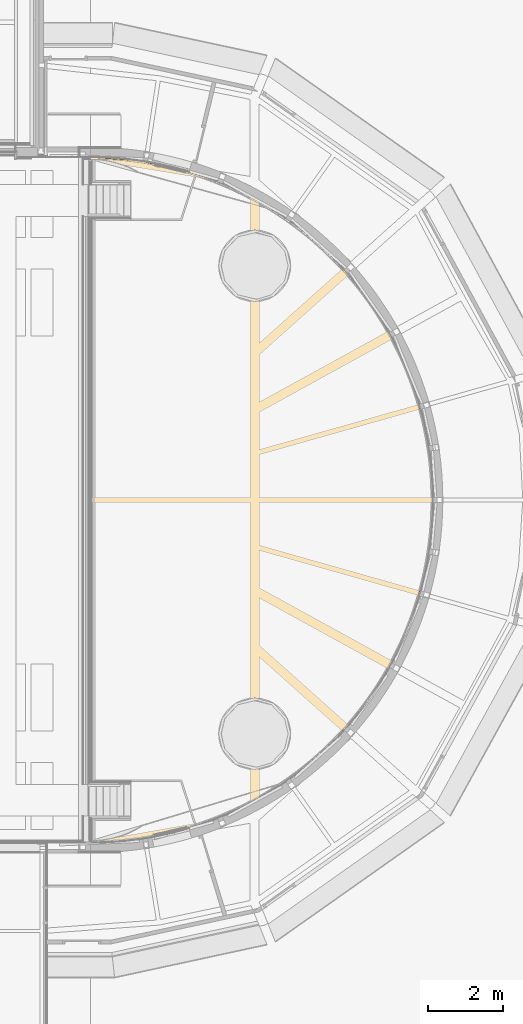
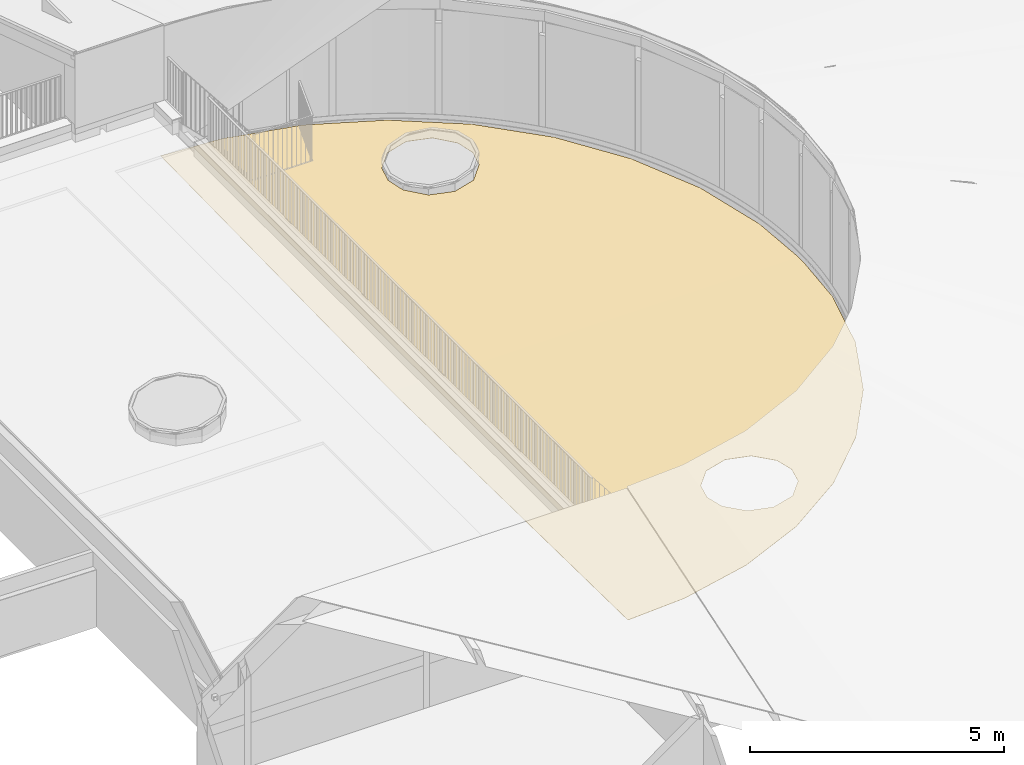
# One storey, part 64 of 66: 1 covering.
"""IFC2X3 building model written with IfcOpenShell, lengths in millimetres."""

from ifc_helpers import new_model, entity, si_unit, converted_unit, derived_unit, direction, frame, origin, place, context, subcontext, project, spatial, faceted_brep, material, layer, layer_set, layer_usage, type_object, element, save


model = new_model("IFC2X3")

# Units and contexts
model_context = context("Model", 3, precision=0.01, world=origin(), true_north=direction((6.12303176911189e-17, 1.0)))
body_context = subcontext(model_context, "Body", "Model", "MODEL_VIEW")
ifc_project = project(units=[si_unit("LENGTHUNIT", "METRE", prefix="MILLI"), si_unit("AREAUNIT", "SQUARE_METRE"), si_unit("VOLUMEUNIT", "CUBIC_METRE"), converted_unit("PLANEANGLEUNIT", "DEGREE", entity("IfcRatioMeasure", 0.0174532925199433), si_unit("PLANEANGLEUNIT", "RADIAN"), dimensions=[0, 0, 0, 0, 0, 0, 0]), si_unit("MASSUNIT", "GRAM", prefix="KILO"), derived_unit("MASSDENSITYUNIT", [(si_unit("MASSUNIT", "GRAM", prefix="KILO"), 1), (si_unit("LENGTHUNIT", "METRE"), -3)]), derived_unit("MOMENTOFINERTIAUNIT", [(si_unit("LENGTHUNIT", "METRE"), 4)]), si_unit("TIMEUNIT", "SECOND"), si_unit("FREQUENCYUNIT", "HERTZ"), si_unit("THERMODYNAMICTEMPERATUREUNIT", "DEGREE_CELSIUS"), derived_unit("THERMALTRANSMITTANCEUNIT", [(si_unit("MASSUNIT", "GRAM", prefix="KILO"), 1), (si_unit("THERMODYNAMICTEMPERATUREUNIT", "KELVIN"), -1), (si_unit("TIMEUNIT", "SECOND"), -3)]), derived_unit("VOLUMETRICFLOWRATEUNIT", [(si_unit("LENGTHUNIT", "METRE"), 3), (si_unit("TIMEUNIT", "SECOND"), -1)]), si_unit("ELECTRICCURRENTUNIT", "AMPERE"), si_unit("ELECTRICVOLTAGEUNIT", "VOLT"), si_unit("POWERUNIT", "WATT"), si_unit("FORCEUNIT", "NEWTON", prefix="KILO"), si_unit("ILLUMINANCEUNIT", "LUX"), si_unit("LUMINOUSFLUXUNIT", "LUMEN"), si_unit("LUMINOUSINTENSITYUNIT", "CANDELA"), derived_unit("USERDEFINED", [(si_unit("MASSUNIT", "GRAM", prefix="KILO"), -1), (si_unit("LENGTHUNIT", "METRE"), -2), (si_unit("TIMEUNIT", "SECOND"), 3), (si_unit("LUMINOUSFLUXUNIT", "LUMEN"), 1)]), derived_unit("LINEARVELOCITYUNIT", [(si_unit("LENGTHUNIT", "METRE"), 1), (si_unit("TIMEUNIT", "SECOND"), -1)]), si_unit("PRESSUREUNIT", "PASCAL"), derived_unit("USERDEFINED", [(si_unit("LENGTHUNIT", "METRE"), -2), (si_unit("MASSUNIT", "GRAM", prefix="KILO"), 1), (si_unit("TIMEUNIT", "SECOND"), -2)]), derived_unit("LINEARFORCEUNIT", [(si_unit("MASSUNIT", "GRAM", prefix="KILO"), 1), (si_unit("LENGTHUNIT", "METRE"), 1), (si_unit("TIMEUNIT", "SECOND"), -2), (si_unit("LENGTHUNIT", "METRE"), -1)]), derived_unit("PLANARFORCEUNIT", [(si_unit("MASSUNIT", "GRAM", prefix="KILO"), 1), (si_unit("LENGTHUNIT", "METRE"), 1), (si_unit("TIMEUNIT", "SECOND"), -2), (si_unit("LENGTHUNIT", "METRE"), -2)])], contexts=[model_context])

# Site, building, storey
site_placement = place(None, origin())
site = spatial("IfcSite", under=ifc_project, at=site_placement, Name="Default", CompositionType="ELEMENT")
building_placement = place(site_placement, origin())
building = spatial("IfcBuilding", under=site, at=building_placement, Name="-", CompositionType="ELEMENT")
storey_placement = place(building_placement, frame((0.0, 0.0, 3070.0)))
storey = spatial("IfcBuildingStorey", under=building, at=storey_placement, Name="01 eerste verdieping", CompositionType="ELEMENT", Elevation=3070.00000000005)

# Covering
ifc_material = material(Name="NLRS_n2_bitumen_dak bedekking")
ifc_layer = layer(ifc_material, 6.0)
ifc_layer_set = layer_set([ifc_layer], Name="Basic Roof:47.11_2 laagse Bitumen dakbedekking")
ifc_layer_usage = layer_usage(ifc_layer_set, "AXIS3", "NEGATIVE", 0.0)
covering_type = type_object("IfcCoveringType", Name="Basic Roof:47.11_2 laagse Bitumen dakbedekking", PredefinedType="NOTDEFINED")
covering_placement = place(storey_placement, frame((50603.5419916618, 10413.1220734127, 238.405495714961)))
element("IfcCovering", 1, at=covering_placement, inside=storey, type_object=covering_type, material=ifc_layer_usage, Name="Basic Roof:47.11_2 laagse Bitumen dakbedekking", ObjectType="Basic Roof:47.11_2 laagse Bitumen dakbedekking", PredefinedType="NOTDEFINED", context=body_context, shape_type="Brep", body=[
    faceted_brep([(1.5952722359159, 1.59527223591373, 147.207149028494), (1.5952722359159, 1.5952722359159, 153.207916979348), (1.59527223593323, 9102.38556870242, 7.59527223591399), (1.59527223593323, 9302.38556870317, 7.5952722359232), (1.59527223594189, 18404.2800388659, 153.225583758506), (1.59527223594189, 18404.2800388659, 147.224815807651), (1.59527223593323, 9302.43356563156, 1.59527223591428), (1.59527223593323, 9102.33757177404, 1.59527223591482), (5413.585995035, 15487.4270700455, 106.555936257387), (7068.23577131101, 15145.3925778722, 101.083384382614), (6770.48338648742, 15438.6208720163, 105.775037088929), (5355.37548143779, 15232.390146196, 102.475345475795), (6472.73100166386, 15731.8491661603, 110.466689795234), (6174.97861684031, 16025.0774603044, 115.158342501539), (5877.22623201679, 16318.3057544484, 119.849995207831), (5366.05105162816, 15695.691264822, 109.88816337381), (5318.51610822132, 15070.8986804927, 99.8914820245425), (5141.42644835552, 14872.7352596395, 96.7208672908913), (4964.33678848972, 14674.5718387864, 93.5502525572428), (7308.02520992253, 14803.1348675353, 95.607261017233), (7547.81464853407, 14460.8771571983, 90.1311376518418), (7787.60408714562, 14118.6194468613, 84.6550142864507), (8027.3935257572, 13776.3617365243, 79.1788909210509), (8114.34991024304, 13586.3659050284, 76.1389576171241), (8201.3062947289, 13396.3700735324, 73.0990243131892), (8288.26267921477, 13206.3742420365, 70.0590910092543), (8375.21906370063, 13016.3784105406, 67.0191577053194), (8462.1754481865, 12826.3825790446, 63.9792244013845), (8549.13183267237, 12636.3867475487, 60.9392910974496), (8636.08821715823, 12446.3909160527, 57.8993577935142), (8723.04460164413, 12256.3950845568, 54.8594244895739), (4708.96139176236, 14600.999454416, 92.3730944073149), (4581.27369339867, 14564.2132622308, 91.7845153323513), (4453.58599503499, 14527.4270700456, 91.1959362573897), (8774.19284694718, 12053.8026715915, 51.6179458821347), (8825.34109225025, 11851.2102586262, 48.3764672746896), (8876.48933755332, 11648.6178456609, 45.134988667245), (8927.6375828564, 11446.0254326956, 41.8935100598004), (8978.78582815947, 11243.4330197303, 38.6520314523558), (9029.93407346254, 11040.840606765, 35.4105528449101), (9081.08231876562, 10838.2481937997, 32.1690742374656), (9132.2305640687, 10635.6557808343, 28.9275956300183), (4325.89829667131, 14564.2132622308, 91.7845153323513), (4198.21059830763, 14600.999454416, 92.3730944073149), (3942.83520158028, 14674.5718387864, 93.5502525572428), (3765.74554171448, 14872.7352596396, 96.7208672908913), (3588.65588184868, 15070.8986804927, 99.8914820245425), (3551.79650909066, 15232.3901441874, 102.475345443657), (3493.585995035, 15487.4270700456, 106.555936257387), (669.007199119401, 18358.6483133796, 152.495476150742), (1002.71316256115, 18335.8324506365, 152.130422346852), (1336.41912600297, 18313.0165878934, 151.765368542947), (3541.12093844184, 15695.691264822, 109.88816337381), (3588.65588184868, 15903.9554595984, 113.220390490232), (2149.82603155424, 18120.8539832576, 148.690766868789), (2963.23293710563, 17928.6913786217, 145.616165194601), (3765.74554171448, 16102.1188804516, 116.391005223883), (3942.83520158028, 16300.2823013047, 119.561619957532), (3728.4522486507, 17592.541611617, 140.23776892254), (4493.67156019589, 17256.3918446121, 134.859372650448), (4070.52289994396, 16337.0684934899, 120.150199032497), (4198.21059830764, 16373.8546856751, 120.73877810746), (4453.585995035, 16447.4270700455, 121.915936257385), (4708.96139176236, 16373.8546856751, 120.73877810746), (4836.64909012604, 16337.0684934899, 120.150199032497), (4964.33678848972, 16300.2823013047, 119.561619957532), (5141.42644835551, 16102.1188804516, 116.391005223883), (5531.33756406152, 16552.8272769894, 123.602339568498), (5185.44889610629, 16787.3487995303, 127.354683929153), (4839.56022815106, 17021.8703220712, 131.107028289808), (5318.51610822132, 15903.9554595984, 113.220390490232), (9160.15264260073, 10302.3382278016, 23.5945147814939), (9188.07472113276, 9969.02067476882, 18.2614339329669), (9215.9967996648, 9635.70312173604, 12.928353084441), (9243.91887819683, 9302.38556870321, 7.59527223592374), (9244.45628734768, 9202.3855360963, 7.59527223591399), (9243.90687747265, 9102.38556870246, 7.59527223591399), (4453.585995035, 3888.52917088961, 91.0169746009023), (8722.75482168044, 6148.65659762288, 54.8549357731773), (8773.91978994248, 6351.22830227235, 51.6137884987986), (4581.27369339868, 3851.7429787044, 91.6055536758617), (8825.08475820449, 6553.80000692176, 48.3726412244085), (8876.24972646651, 6756.37171157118, 45.1314939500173), (8927.41469472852, 6958.94341622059, 41.8903466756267), (8978.57966299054, 7161.51512087, 38.649199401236), (9029.74463125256, 7364.08682551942, 35.4080521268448), (9080.90959951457, 7566.65853016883, 32.1669048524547), (9132.07456777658, 7769.23023481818, 28.9257575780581), (4325.89829667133, 3851.7429787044, 91.6055536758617), (4708.96139176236, 3814.95678651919, 92.1941327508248), (4964.33678848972, 3741.38440214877, 93.3712909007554), (8635.78838759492, 5958.68294459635, 57.8945142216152), (8548.82195350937, 5768.70929156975, 60.934092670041), (8461.85551942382, 5578.73563854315, 63.9736711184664), (8374.88908533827, 5388.76198551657, 67.0132495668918), (8287.92265125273, 5198.78833248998, 70.0528280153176), (8200.95621716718, 5008.8146794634, 73.092406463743), (8113.98978308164, 4818.84102643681, 76.1319849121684), (8027.02334899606, 4628.86737341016, 79.1715633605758), (7787.22694305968, 4286.65357809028, 84.6469840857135), (7547.43053712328, 3944.43978277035, 90.1224048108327), (7307.63413118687, 3602.22598745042, 95.5978255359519), (7067.83772525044, 3260.01219213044, 101.073246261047), (5141.42644835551, 3543.22098129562, 96.5419056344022), (5318.51610822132, 3345.05756044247, 99.7125203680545), (5366.05105162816, 3136.79336566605, 103.044747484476), (5413.585995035, 2928.52917088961, 106.376974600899), (6770.09052420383, 2966.82419395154, 105.764254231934), (6472.34332315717, 2673.63619577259, 110.455262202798), (6174.59612211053, 2380.44819759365, 115.146270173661), (5876.84892106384, 2087.26019941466, 119.837278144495), (5366.05105162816, 2720.26497611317, 109.709201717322), (5318.51610822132, 2512.00078133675, 113.041428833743), (5141.42644835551, 2313.8373604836, 116.212043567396), (4964.33678848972, 2115.67393963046, 119.382658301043), (5530.97591360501, 1852.7725436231, 123.58908063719), (5185.10290614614, 1618.28488783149, 127.340883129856), (4839.22989868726, 1383.79723203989, 131.092685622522), (4493.35689122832, 1149.30957624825, 134.844488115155), (4836.64909012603, 2078.88774744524, 119.971237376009), (4708.96139176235, 2042.10155526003, 120.559816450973), (4453.58599503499, 1968.52917088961, 121.736974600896), (4198.21059830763, 2042.10155526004, 120.559816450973), (4070.52289994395, 2078.88774744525, 119.971237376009), (3942.83520158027, 2115.67393963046, 119.382658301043), (3728.18532786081, 813.210081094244, 140.222080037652), (2963.01376449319, 477.110585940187, 145.599671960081), (3765.74554171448, 2313.83736048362, 116.212043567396), (3588.65588184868, 2512.00078133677, 113.041428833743), (2149.66559518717, 284.977435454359, 148.673802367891), (1336.31742588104, 92.8442849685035, 151.747932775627), (3541.12093844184, 2720.2649761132, 109.709201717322), (3493.585995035, 2928.52917088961, 106.376974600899), (1273.80710049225, 88.5707322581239, 151.816309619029), (1211.2967751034, 84.2971795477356, 151.884686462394), (1148.78644971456, 80.0236268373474, 151.953063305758), (1086.27612432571, 75.7500741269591, 152.021440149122), (1023.76579893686, 71.4765214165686, 152.089816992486), (961.255473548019, 67.2029687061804, 152.158193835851), (898.745148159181, 62.9294159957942, 152.226570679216), (836.234822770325, 58.6558632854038, 152.29494752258), (784.069850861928, 55.0895763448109, 152.352008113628), (731.904878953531, 51.5232894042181, 152.409068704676), (679.739907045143, 47.9570024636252, 152.466129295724), (627.574935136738, 44.3907155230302, 152.523189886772), (575.409963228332, 40.8244285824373, 152.580250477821), (523.244991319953, 37.2581416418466, 152.637311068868), (471.080019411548, 33.6918547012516, 152.694371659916), (418.915047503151, 30.1255677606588, 152.751432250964), (366.750075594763, 26.5592808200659, 152.808492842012), (314.585103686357, 22.992993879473, 152.86555343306), (262.420131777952, 19.426706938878, 152.922614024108), (210.255159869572, 15.8604199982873, 152.979674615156), (158.090187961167, 12.2941330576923, 153.036735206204), (105.92521605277, 8.72784611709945, 153.093795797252), (53.760244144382, 5.16155917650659, 153.1508563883), (3541.12093844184, 3136.79336566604, 103.044747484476), (3588.65588184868, 3345.05756044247, 99.7125203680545), (3765.74554171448, 3543.22098129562, 96.5419056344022), (3942.83520158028, 3741.38440214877, 93.3712909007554), (4198.21059830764, 3814.95678651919, 92.1941327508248), (9160.03264520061, 8102.51906828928, 23.5931362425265), (9187.99072262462, 8435.80790176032, 18.2605149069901), (9215.94880004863, 8769.09673523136, 12.9278935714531), (5413.585995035, 2928.52917088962, 100.376206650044), (7067.82042200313, 3259.99173893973, 95.0728055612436), (6770.07344637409, 2966.80549233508, 99.7637855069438), (5366.05105162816, 3136.79336566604, 97.0439795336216), (6472.32647074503, 2673.61924573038, 104.454765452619), (6174.57949511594, 2380.43299912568, 109.145745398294), (5876.83251948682, 2087.24675252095, 113.83672534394), (5366.05105162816, 2720.26497611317, 103.708433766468), (5318.51610822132, 3345.05756044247, 93.7117524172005), (5141.42644835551, 3543.22098129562, 90.5411376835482), (4964.33678848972, 3741.38440214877, 87.3705229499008), (7307.61713068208, 3602.20362535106, 89.5974153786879), (7547.41383936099, 3944.41551176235, 84.1220251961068), (7787.21054803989, 4286.62739817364, 78.6466350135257), (8027.00725671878, 4628.83928458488, 73.1712448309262), (8113.97412757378, 4818.811973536, 70.1316818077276), (8200.94099842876, 5008.78466248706, 67.0921187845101), (8287.90786928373, 5198.75735143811, 64.0525557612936), (8374.87474013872, 5388.73004038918, 61.0129927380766), (8461.8416109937, 5578.70272934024, 57.9734297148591), (8548.80848184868, 5768.6754182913, 54.9338666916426), (8635.77535270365, 5958.64810724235, 51.8943036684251), (8722.74222355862, 6148.62079619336, 48.8547406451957), (4708.96139176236, 3814.95678651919, 86.1933647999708), (4581.27369339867, 3851.7429787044, 85.6047857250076), (4453.585995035, 3888.52917088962, 85.0162066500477), (8773.90791866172, 6351.19160065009, 45.6136077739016), (8825.0736137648, 6553.76240510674, 42.3724749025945), (8876.2393088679, 6756.33320956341, 39.1313420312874), (8927.40500397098, 6958.90401402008, 35.8902091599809), (8978.57069907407, 7161.47481847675, 32.6490762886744), (9029.73639417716, 7364.04562293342, 29.4079434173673), (9080.90208928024, 7566.61642739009, 26.1668105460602), (9132.06778438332, 7769.18723184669, 22.9256776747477), (4325.89829667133, 3851.7429787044, 85.6047857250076), (4198.21059830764, 3814.95678651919, 86.1933647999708), (3942.83520158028, 3741.38440214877, 87.3705229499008), (3765.74554171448, 3543.22098129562, 90.5411376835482), (3588.65588184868, 3345.05756044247, 93.7117524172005), (3541.12093844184, 3136.79336566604, 97.0439795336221), (3493.585995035, 2928.52917088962, 100.376206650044), (43.3052013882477, 4.44678427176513, 147.161524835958), (85.0151305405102, 7.29829630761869, 147.115900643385), (168.434988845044, 13.0013203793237, 147.024652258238), (210.144917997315, 15.8528324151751, 146.979028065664), (251.854847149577, 18.7043444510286, 146.93340387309), (335.274705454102, 24.4073685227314, 146.842155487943), (376.984634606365, 27.258880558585, 146.796531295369), (418.694563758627, 30.1103925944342, 146.750907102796), (460.40449291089, 32.9619046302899, 146.705282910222), (502.114422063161, 35.8134166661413, 146.659658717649), (585.534280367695, 41.5164407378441, 146.568410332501), (627.244209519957, 44.3679527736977, 146.522786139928), (668.954138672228, 47.2194648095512, 146.477161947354), (752.373996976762, 52.922488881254, 146.385913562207), (794.083926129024, 55.7740009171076, 146.340289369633), (835.793855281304, 58.6255129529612, 146.294665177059), (919.213713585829, 64.328537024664, 146.203416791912), (960.923642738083, 67.1800490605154, 146.157792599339), (1002.63357189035, 70.0315610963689, 146.112168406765), (1086.05343019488, 75.7345851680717, 146.020920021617), (1169.47328849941, 81.4376092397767, 145.92967163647), (1211.18321765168, 84.2891212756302, 145.884047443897), (1252.89314680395, 87.1406333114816, 145.838423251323), (1336.31300510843, 92.8436573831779, 145.747174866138), (3541.12093844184, 2720.26497611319, 103.708433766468), (3588.65588184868, 2512.00078133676, 107.040660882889), (2149.65862120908, 284.975527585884, 142.673064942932), (2963.00423730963, 477.107397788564, 139.598955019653), (3765.74554171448, 2313.83736048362, 110.211275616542), (3942.83520158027, 2115.67393963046, 113.381890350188), (3728.17372507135, 813.204707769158, 134.221398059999), (4493.34321283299, 1149.30201774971, 128.843841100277), (4070.52289994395, 2078.88774744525, 113.970469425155), (4198.21059830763, 2042.10155526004, 114.559048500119), (4453.58599503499, 1968.52917088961, 115.736206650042), (4708.96139176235, 2042.10155526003, 114.559048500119), (4836.64909012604, 2078.88774744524, 113.970469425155), (4964.33678848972, 2115.67393963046, 113.381890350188), (5141.42644835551, 2313.8373604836, 110.211275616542), (5530.96019282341, 1852.76056882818, 117.588504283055), (5185.08786615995, 1618.27438513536, 121.34028322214), (4839.21553949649, 1383.78820144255, 125.092062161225), (5318.51610822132, 2512.00078133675, 107.040660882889), (9160.02742649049, 8102.47481682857, 17.5930763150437), (9187.98706859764, 8435.76240181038, 12.2604749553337), (9215.9467107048, 8769.0499867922, 6.92787359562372), (9243.90635281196, 9102.33757177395, 1.5952722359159), (9243.9183592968, 9302.43356563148, 1.59527223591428), (9244.45628734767, 9202.38553606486, 1.59527223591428), (4453.58599503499, 14527.4270700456, 85.1951683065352), (8723.03200693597, 12256.4308871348, 48.859229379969), (8774.18097923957, 12053.839374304, 45.6177651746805), (4581.27369339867, 14564.2132622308, 85.7837473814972), (8825.3299515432, 11851.2478614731, 42.3763009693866), (8876.47892384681, 11648.6563486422, 39.1348367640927), (8927.62789615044, 11446.0648358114, 35.8933725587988), (8978.77686845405, 11243.4733229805, 32.6519083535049), (9029.92584075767, 11040.8818101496, 29.410444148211), (9081.0748130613, 10838.2902973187, 26.1689799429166), (9132.22378536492, 10635.6987844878, 22.9275157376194), (4325.89829667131, 14564.2132622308, 85.7837473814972), (4708.96139176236, 14600.999454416, 86.3723264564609), (4964.33678848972, 14674.5718387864, 87.5494846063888), (8636.07518554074, 12446.4257545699, 51.8991472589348), (8549.11836414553, 12636.420622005, 54.9390651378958), (8462.16154275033, 12826.41548944, 57.9789830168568), (8375.20472135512, 13016.4103568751, 61.0189008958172), (8288.24789995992, 13206.4052243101, 64.0588187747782), (8201.29107856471, 13396.4000917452, 67.0987366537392), (8114.3342571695, 13586.3949591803, 70.1386545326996), (8027.37743577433, 13776.3898266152, 73.178572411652), (7787.58769419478, 14118.6456280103, 78.6546652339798), (7547.79795261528, 14460.9014294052, 84.1307580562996), (7308.00821103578, 14803.1572308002, 89.6068508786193), (7068.2184694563, 15145.4130321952, 95.0829437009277), (5141.42644835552, 14872.7352596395, 90.7200993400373), (5318.51610822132, 15070.8986804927, 93.8907140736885), (5366.05105162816, 15279.1628752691, 97.2229411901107), (5413.585995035, 15487.4270700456, 100.555168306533), (6770.46630988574, 15438.639574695, 99.7745683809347), (6472.71415031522, 15731.8661171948, 104.466193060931), (6174.96199074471, 16025.0926596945, 109.157817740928), (5877.20983117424, 16318.3192021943, 113.849442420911), (5355.37548097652, 15742.4639959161, 104.635759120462), (5318.51610822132, 15903.9554595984, 107.219622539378), (5141.42644835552, 16102.1188804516, 110.39023727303), (4964.33678848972, 16300.2823013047, 113.560852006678), (5531.32184390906, 16552.8392525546, 117.601763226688), (5185.43385664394, 16787.3593029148, 121.354084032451), (4839.54586937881, 17021.879353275, 125.106404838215), (4493.65788211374, 17256.3994036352, 128.858725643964), (4836.64909012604, 16337.0684934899, 114.149431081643), (4708.96139176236, 16373.8546856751, 114.738010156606), (4453.585995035, 16447.4270700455, 115.915168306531), (4198.21059830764, 16373.8546856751, 114.738010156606), (4070.52289994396, 16337.0684934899, 114.149431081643), (3942.83520158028, 16300.2823013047, 113.560852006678), (3728.44064606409, 17592.5469853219, 134.237086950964), (2963.22341001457, 17928.6945670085, 139.615448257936), (3765.74554171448, 16102.1188804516, 110.390237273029), (3588.65588184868, 15903.9554595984, 107.219622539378), (2149.8190576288, 18120.8558912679, 142.6900294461), (1336.41470524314, 18313.0172155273, 145.764610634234), (3551.7965090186, 15742.463995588, 104.635759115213), (3493.585995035, 15487.4270700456, 100.555168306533), (1002.70984699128, 18335.8329213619, 146.129661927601), (669.004988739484, 18358.6486271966, 146.494713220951), (3541.12093844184, 15279.1628752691, 97.2229411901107), (3588.65588184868, 15070.8986804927, 93.8907140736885), (3765.74554171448, 14872.7352596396, 90.7200993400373), (3942.83520158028, 14674.5718387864, 87.5494846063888), (4198.21059830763, 14600.999454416, 86.3723264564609), (9160.14742884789, 10302.3824797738, 17.5944548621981), (9188.07107233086, 9969.06617505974, 12.2613939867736), (9215.99471581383, 9635.7498703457, 6.92833311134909)], [[[0, 1, 2, 3, 4, 5, 6, 7]], [[8, 9, 10]], [[9, 8, 11]], [[8, 10, 12]], [[8, 12, 13]], [[8, 13, 14]], [[14, 15, 8]], [[9, 11, 16]], [[9, 16, 17]], [[9, 17, 18]], [[18, 19, 9]], [[18, 20, 19]], [[18, 21, 20]], [[18, 22, 21]], [[18, 23, 22]], [[18, 24, 23]], [[18, 25, 24]], [[18, 26, 25]], [[18, 27, 26]], [[18, 28, 27]], [[18, 29, 28]], [[18, 30, 29]], [[30, 18, 31]], [[30, 31, 32]], [[30, 32, 33]], [[33, 34, 30]], [[33, 35, 34]], [[33, 36, 35]], [[33, 37, 36]], [[33, 38, 37]], [[33, 39, 38]], [[33, 40, 39]], [[33, 41, 40]], [[33, 3, 41]], [[3, 33, 42]], [[3, 42, 43]], [[3, 43, 44]], [[3, 44, 45]], [[3, 45, 46]], [[4, 3, 46]], [[4, 46, 47]], [[4, 47, 48]], [[48, 49, 4]], [[48, 50, 49]], [[48, 51, 50]], [[51, 48, 52]], [[51, 52, 53]], [[53, 54, 51]], [[53, 55, 54]], [[55, 53, 56]], [[55, 56, 57]], [[57, 58, 55]], [[57, 59, 58]], [[59, 57, 60]], [[59, 60, 61]], [[59, 61, 62]], [[59, 62, 63]], [[59, 63, 64]], [[59, 64, 65]], [[14, 65, 66]], [[65, 14, 67]], [[65, 67, 68]], [[65, 68, 69]], [[65, 69, 59]], [[14, 66, 70]], [[14, 70, 15]], [[3, 71, 41]], [[3, 72, 71]], [[3, 73, 72]], [[3, 74, 73]], [[75, 74, 3, 2, 76]], [[77, 78, 79]], [[78, 77, 80]], [[77, 79, 81]], [[77, 81, 82]], [[77, 82, 83]], [[77, 83, 84]], [[77, 84, 85]], [[77, 85, 86]], [[77, 86, 87]], [[77, 87, 2]], [[2, 88, 77]], [[78, 80, 89]], [[78, 89, 90]], [[90, 91, 78]], [[90, 92, 91]], [[90, 93, 92]], [[90, 94, 93]], [[90, 95, 94]], [[90, 96, 95]], [[90, 97, 96]], [[90, 98, 97]], [[90, 99, 98]], [[90, 100, 99]], [[90, 101, 100]], [[90, 102, 101]], [[102, 90, 103]], [[102, 103, 104]], [[102, 104, 105]], [[102, 105, 106]], [[106, 107, 102]], [[106, 108, 107]], [[106, 109, 108]], [[106, 110, 109]], [[110, 106, 111]], [[110, 111, 112]], [[110, 112, 113]], [[110, 113, 114]], [[114, 115, 110]], [[114, 116, 115]], [[114, 117, 116]], [[114, 118, 117]], [[118, 114, 119]], [[118, 119, 120]], [[118, 120, 121]], [[118, 121, 122]], [[118, 122, 123]], [[118, 123, 124]], [[124, 125, 118]], [[124, 126, 125]], [[126, 124, 127]], [[126, 127, 128]], [[128, 129, 126]], [[128, 130, 129]], [[130, 128, 131]], [[130, 131, 132]], [[132, 133, 130]], [[132, 134, 133]], [[132, 135, 134]], [[132, 136, 135]], [[132, 137, 136]], [[132, 138, 137]], [[132, 139, 138]], [[132, 140, 139]], [[132, 141, 140]], [[132, 142, 141]], [[132, 143, 142]], [[132, 144, 143]], [[132, 145, 144]], [[132, 146, 145]], [[132, 147, 146]], [[132, 148, 147]], [[132, 149, 148]], [[132, 150, 149]], [[132, 151, 150]], [[132, 152, 151]], [[132, 153, 152]], [[132, 154, 153]], [[132, 155, 154]], [[132, 1, 155]], [[1, 132, 156]], [[1, 156, 157]], [[2, 157, 158]], [[2, 1, 157]], [[2, 158, 159]], [[2, 159, 160]], [[2, 160, 88]], [[2, 87, 161]], [[2, 161, 162]], [[2, 162, 163]], [[2, 163, 76]], [[164, 165, 166]], [[165, 164, 167]], [[164, 166, 168]], [[164, 168, 169]], [[164, 169, 170]], [[170, 171, 164]], [[165, 167, 172]], [[165, 172, 173]], [[165, 173, 174]], [[174, 175, 165]], [[174, 176, 175]], [[174, 177, 176]], [[174, 178, 177]], [[174, 179, 178]], [[174, 180, 179]], [[174, 181, 180]], [[174, 182, 181]], [[174, 183, 182]], [[174, 184, 183]], [[174, 185, 184]], [[174, 186, 185]], [[186, 174, 187]], [[186, 187, 188]], [[186, 188, 189]], [[189, 190, 186]], [[189, 191, 190]], [[189, 192, 191]], [[189, 193, 192]], [[189, 194, 193]], [[189, 195, 194]], [[189, 196, 195]], [[189, 197, 196]], [[189, 7, 197]], [[7, 189, 198]], [[7, 198, 199]], [[7, 199, 200]], [[7, 200, 201]], [[7, 201, 202]], [[0, 7, 202]], [[0, 202, 203]], [[0, 203, 204]], [[204, 205, 0]], [[204, 206, 205]], [[204, 207, 206]], [[204, 208, 207]], [[204, 209, 208]], [[204, 210, 209]], [[204, 211, 210]], [[204, 212, 211]], [[204, 213, 212]], [[204, 214, 213]], [[204, 215, 214]], [[204, 216, 215]], [[204, 217, 216]], [[204, 218, 217]], [[204, 219, 218]], [[204, 220, 219]], [[204, 221, 220]], [[204, 222, 221]], [[204, 223, 222]], [[204, 224, 223]], [[204, 225, 224]], [[204, 226, 225]], [[204, 227, 226]], [[204, 228, 227]], [[228, 204, 229]], [[228, 229, 230]], [[230, 231, 228]], [[230, 232, 231]], [[232, 230, 233]], [[232, 233, 234]], [[234, 235, 232]], [[234, 236, 235]], [[236, 234, 237]], [[236, 237, 238]], [[236, 238, 239]], [[236, 239, 240]], [[236, 240, 241]], [[236, 241, 242]], [[170, 242, 243]], [[242, 170, 244]], [[242, 244, 245]], [[242, 245, 246]], [[242, 246, 236]], [[170, 243, 247]], [[170, 247, 171]], [[7, 248, 197]], [[7, 249, 248]], [[7, 250, 249]], [[7, 251, 250]], [[252, 253, 251, 7, 6]], [[254, 255, 256]], [[255, 254, 257]], [[254, 256, 258]], [[254, 258, 259]], [[254, 259, 260]], [[254, 260, 261]], [[254, 261, 262]], [[254, 262, 263]], [[254, 263, 264]], [[254, 264, 6]], [[6, 265, 254]], [[255, 257, 266]], [[255, 266, 267]], [[267, 268, 255]], [[267, 269, 268]], [[267, 270, 269]], [[267, 271, 270]], [[267, 272, 271]], [[267, 273, 272]], [[267, 274, 273]], [[267, 275, 274]], [[267, 276, 275]], [[267, 277, 276]], [[267, 278, 277]], [[267, 279, 278]], [[279, 267, 280]], [[279, 280, 281]], [[279, 281, 282]], [[279, 282, 283]], [[283, 284, 279]], [[283, 285, 284]], [[283, 286, 285]], [[283, 287, 286]], [[287, 283, 288]], [[287, 288, 289]], [[287, 289, 290]], [[287, 290, 291]], [[291, 292, 287]], [[291, 293, 292]], [[291, 294, 293]], [[291, 295, 294]], [[295, 291, 296]], [[295, 296, 297]], [[295, 297, 298]], [[295, 298, 299]], [[295, 299, 300]], [[295, 300, 301]], [[301, 302, 295]], [[301, 303, 302]], [[303, 301, 304]], [[303, 304, 305]], [[305, 306, 303]], [[305, 307, 306]], [[307, 305, 308]], [[307, 308, 309]], [[309, 310, 307]], [[309, 311, 310]], [[309, 5, 311]], [[5, 309, 312]], [[5, 312, 313]], [[6, 313, 314]], [[6, 5, 313]], [[6, 314, 315]], [[6, 315, 316]], [[6, 316, 265]], [[6, 264, 317]], [[6, 317, 318]], [[6, 318, 319]], [[6, 319, 252]], [[51, 307, 310]], [[262, 39, 40]], [[98, 177, 178]], [[49, 5, 4]], [[306, 307, 54]], [[118, 235, 236]], [[55, 303, 306]], [[287, 14, 13]], [[302, 303, 58]], [[83, 192, 193]], [[294, 295, 69]], [[67, 293, 68]], [[285, 12, 10]], [[125, 232, 235]], [[129, 228, 231]], [[302, 59, 295]], [[284, 10, 9]], [[175, 100, 101]], [[277, 20, 21]], [[287, 13, 286]], [[274, 275, 23]], [[279, 19, 278]], [[270, 28, 269]], [[29, 30, 268]], [[76, 250, 251]], [[292, 67, 14]], [[34, 256, 255]], [[68, 293, 294]], [[318, 72, 73]], [[261, 39, 262]], [[253, 252, 74]], [[264, 71, 317]], [[303, 55, 58]], [[253, 74, 75]], [[20, 277, 278]], [[197, 161, 87]], [[258, 35, 36]], [[162, 248, 249]], [[78, 185, 186]], [[269, 28, 29]], [[125, 235, 118]], [[169, 108, 109]], [[115, 245, 244]], [[236, 117, 118]], [[246, 116, 117]], [[110, 170, 109]], [[125, 126, 232]], [[110, 244, 170]], [[227, 133, 134]], [[55, 306, 54]], [[102, 166, 165]], [[129, 231, 126]], [[209, 210, 150]], [[126, 231, 232]], [[186, 79, 78]], [[228, 129, 130]], [[40, 41, 263]], [[95, 180, 181]], [[248, 161, 197]], [[84, 194, 85]], [[253, 76, 251]], [[76, 253, 75]], [[250, 163, 249]], [[9, 279, 284]], [[59, 302, 58]], [[307, 51, 54]], [[101, 102, 165]], [[72, 318, 317]], [[166, 107, 168]], [[99, 176, 177]], [[183, 92, 93]], [[178, 97, 98]], [[319, 73, 74]], [[79, 190, 81]], [[276, 21, 22]], [[273, 24, 25]], [[12, 285, 286]], [[74, 252, 319]], [[14, 287, 292]], [[87, 196, 197]], [[295, 59, 69]], [[22, 275, 276]], [[279, 9, 19]], [[24, 273, 274]], [[35, 258, 256]], [[264, 41, 71]], [[248, 162, 161]], [[82, 191, 192]], [[94, 181, 182]], [[100, 175, 176]], [[108, 169, 168]], [[116, 246, 245]], [[179, 96, 97]], [[101, 165, 175]], [[109, 170, 169]], [[117, 236, 246]], [[245, 115, 116]], [[168, 107, 108]], [[176, 99, 100]], [[182, 93, 94]], [[193, 84, 83]], [[249, 163, 162]], [[72, 317, 71]], [[259, 36, 37]], [[272, 25, 26]], [[20, 278, 19]], [[12, 286, 13]], [[68, 294, 69]], [[41, 264, 263]], [[30, 255, 268]], [[191, 82, 81]], [[275, 22, 23]], [[255, 30, 34]], [[192, 83, 82]], [[81, 190, 191]], [[96, 179, 180]], [[97, 178, 179]], [[180, 95, 96]], [[184, 91, 92]], [[195, 86, 85]], [[26, 271, 272]], [[37, 260, 259]], [[35, 256, 34]], [[24, 274, 23]], [[166, 102, 107]], [[177, 98, 99]], [[91, 184, 185]], [[86, 195, 196]], [[250, 76, 163]], [[258, 36, 259]], [[273, 25, 272]], [[318, 73, 319]], [[38, 261, 260]], [[27, 270, 271]], [[277, 21, 276]], [[285, 10, 284]], [[293, 67, 292]], [[196, 87, 86]], [[181, 94, 95]], [[79, 186, 190]], [[244, 110, 115]], [[185, 78, 91]], [[92, 183, 184]], [[85, 194, 195]], [[271, 26, 27]], [[260, 37, 38]], [[262, 40, 263]], [[269, 29, 268]], [[84, 193, 194]], [[93, 182, 183]], [[28, 270, 27]], [[39, 261, 38]], [[310, 311, 50]], [[5, 49, 311]], [[311, 49, 50]], [[51, 310, 50]], [[220, 221, 139]], [[217, 144, 215, 216]], [[222, 223, 138, 221]], [[218, 141, 142]], [[224, 135, 136, 137]], [[212, 213, 148, 211]], [[135, 224, 225]], [[223, 137, 138]], [[224, 137, 223]], [[133, 228, 130]], [[217, 142, 143, 144]], [[154, 206, 207]], [[220, 139, 140]], [[225, 134, 135]], [[213, 214, 147]], [[134, 225, 226, 227]], [[219, 140, 141]], [[151, 152, 209, 150]], [[221, 138, 139]], [[146, 215, 144, 145]], [[215, 146, 214]], [[210, 149, 150]], [[211, 148, 149]], [[228, 133, 227]], [[142, 217, 218]], [[155, 205, 206]], [[214, 146, 147]], [[152, 207, 208, 209]], [[140, 219, 220]], [[207, 152, 153, 154]], [[148, 213, 147]], [[149, 210, 211]], [[141, 218, 219]], [[205, 1, 0]], [[206, 154, 155]], [[1, 205, 155]], [[229, 204, 132, 131, 128, 230]], [[127, 124, 234, 233, 230, 128]], [[243, 242, 114, 113, 112, 247]], [[124, 123, 122, 121, 239, 238, 237, 234]], [[164, 171, 247, 112, 111, 106]], [[241, 240, 239, 121, 120, 119, 114, 242]], [[189, 188, 187, 174, 90, 89, 80, 77]], [[173, 172, 104, 103, 90, 174]], [[164, 106, 105, 104, 172, 167]], [[199, 198, 189, 77, 88, 160, 159, 200]], [[201, 200, 159, 158, 157, 202]], [[156, 132, 204, 203, 202, 157]], [[254, 265, 316, 315, 44, 43, 42, 33]], [[44, 315, 314, 313, 46, 45]], [[17, 16, 281, 280, 267, 18]], [[48, 47, 46, 313, 312, 309]], [[266, 257, 254, 33, 32, 31, 18, 267]], [[282, 281, 16, 11, 8, 283]], [[70, 289, 288, 283, 8, 15]], [[298, 62, 61, 60, 57, 301, 300, 299]], [[290, 289, 70, 66, 65, 291]], [[65, 64, 63, 62, 298, 297, 296, 291]], [[52, 48, 309, 308, 305, 53]], [[56, 53, 305, 304, 301, 57]]]),
])

save(model, "model.ifc")
